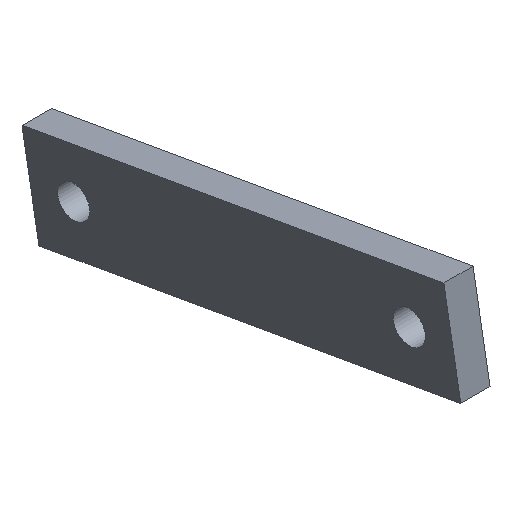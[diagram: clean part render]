
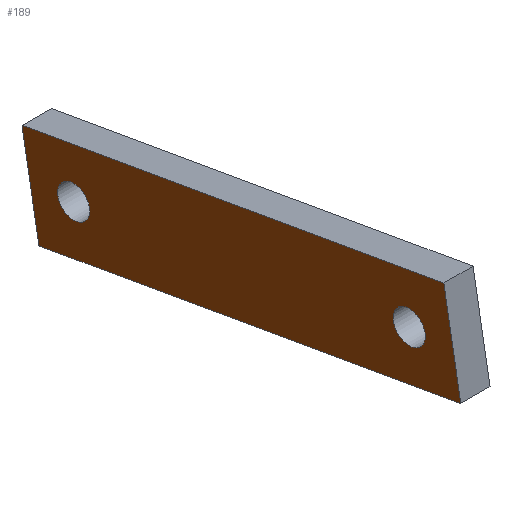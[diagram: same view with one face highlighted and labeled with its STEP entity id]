
A CAD part, isometric view. The second image highlights one B-rep face of the part: STEP entity #189.
In plain terms, the highlighted planar face has unit normal (-1, 0, 0).
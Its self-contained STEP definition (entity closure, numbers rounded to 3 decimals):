
#27=CARTESIAN_POINT('',(-278.5,-227.007,225.133));
#28=VERTEX_POINT('',#27);
#45=CARTESIAN_POINT('',(-278.5,-313.671,240.414));
#46=VERTEX_POINT('',#45);
#53=CARTESIAN_POINT('',(-278.5,-227.007,225.133));
#54=DIRECTION('',(0.0,-0.985,0.174));
#55=VECTOR('',#54,1.);
#56=LINE('',#53,#55);
#57=EDGE_CURVE('',#28,#46,#56,.T.);
#120=CARTESIAN_POINT('',(-278.5,-223.535,244.83));
#121=VERTEX_POINT('',#120);
#128=CARTESIAN_POINT('',(-278.5,-310.198,260.111));
#129=VERTEX_POINT('',#128);
#130=CARTESIAN_POINT('',(-278.5,-223.535,244.83));
#131=DIRECTION('',(0.0,-0.985,0.174));
#132=VECTOR('',#131,1.);
#133=LINE('',#130,#132);
#134=EDGE_CURVE('',#121,#129,#133,.T.);
#146=CARTESIAN_POINT('',(-278.5,-223.535,244.83));
#147=DIRECTION('',(-1.0,0.0,0.0));
#148=DIRECTION('',(0.0,-0.174,-0.985));
#149=AXIS2_PLACEMENT_3D('',#146,#147,#148);
#150=PLANE('',#149);
#151=CARTESIAN_POINT('',(-278.5,-223.535,244.83));
#152=DIRECTION('',(0.,-0.174,-0.985));
#153=VECTOR('',#152,1.);
#154=LINE('',#151,#153);
#155=EDGE_CURVE('',#121,#28,#154,.T.);
#156=ORIENTED_EDGE('',*,*,#155,.T.);
#157=ORIENTED_EDGE('',*,*,#57,.T.);
#158=CARTESIAN_POINT('',(-278.5,-310.198,260.111));
#159=DIRECTION('',(0.,-0.174,-0.985));
#160=VECTOR('',#159,1.);
#161=LINE('',#158,#160);
#162=EDGE_CURVE('',#129,#46,#161,.T.);
#163=ORIENTED_EDGE('',*,*,#162,.F.);
#164=ORIENTED_EDGE('',*,*,#134,.F.);
#165=EDGE_LOOP('',(#156,#157,#163,#164));
#166=FACE_OUTER_BOUND('',#165,.T.);
#167=CARTESIAN_POINT('',(-278.5,-233.561,239.794));
#168=VERTEX_POINT('',#167);
#169=CARTESIAN_POINT('',(-278.5,-234.134,236.544));
#170=DIRECTION('',(1.0,0.,0.));
#171=DIRECTION('',(0.,0.174,0.985));
#172=AXIS2_PLACEMENT_3D('',#169,#170,#171);
#173=CIRCLE('',#172,3.3);
#174=EDGE_CURVE('',#168,#168,#173,.T.);
#175=ORIENTED_EDGE('',*,*,#174,.T.);
#176=EDGE_LOOP('',(#175));
#177=FACE_BOUND('',#176,.T.);
#178=CARTESIAN_POINT('',(-278.5,-302.498,251.95));
#179=VERTEX_POINT('',#178);
#180=CARTESIAN_POINT('',(-278.5,-303.071,248.7));
#181=DIRECTION('',(1.0,0.,0.));
#182=DIRECTION('',(0.,0.174,0.985));
#183=AXIS2_PLACEMENT_3D('',#180,#181,#182);
#184=CIRCLE('',#183,3.3);
#185=EDGE_CURVE('',#179,#179,#184,.T.);
#186=ORIENTED_EDGE('',*,*,#185,.T.);
#187=EDGE_LOOP('',(#186));
#188=FACE_BOUND('',#187,.T.);
#189=ADVANCED_FACE('',(#166,#177,#188),#150,.T.);
